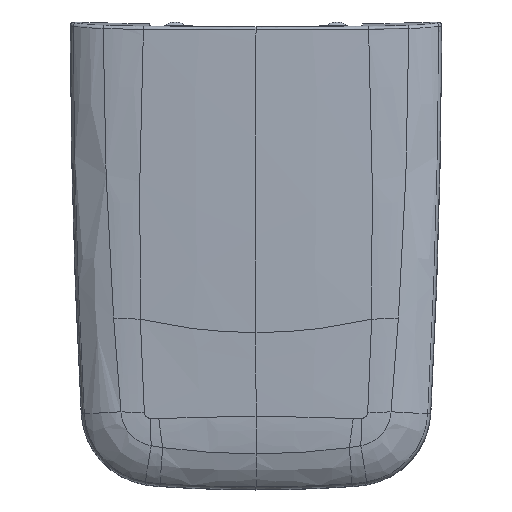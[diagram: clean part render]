
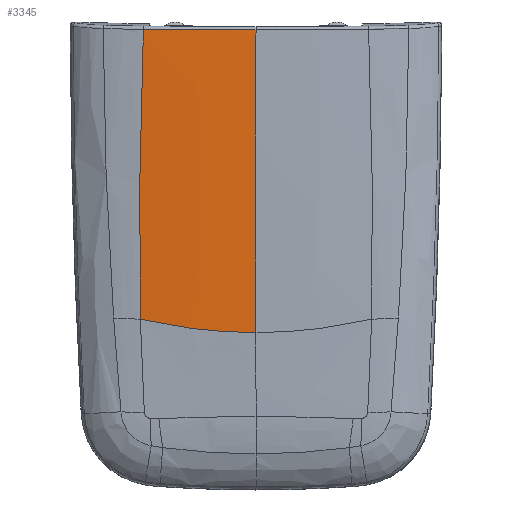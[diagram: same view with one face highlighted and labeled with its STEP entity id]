
A CAD part, top view. The second image highlights one B-rep face of the part: STEP entity #3345.
In plain terms, the highlighted free-form (B-spline) face has degree [2, 5] with [3, 6] control points.
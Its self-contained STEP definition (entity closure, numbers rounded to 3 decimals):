
#200=B_SPLINE_SURFACE_WITH_KNOTS('',2,5,((#8685,#8686,#8687,#8688,#8689,
#8690),(#8691,#8692,#8693,#8694,#8695,#8696),(#8697,#8698,#8699,#8700,#8701,
#8702)),.UNSPECIFIED.,.F.,.F.,.F.,(3,3),(6,6),(0.,1.),(0.,1.),
 .UNSPECIFIED.);
#386=B_SPLINE_CURVE_WITH_KNOTS('',2,(#6528,#6529,#6530),.UNSPECIFIED.,.F.,
 .F.,(3,3),(0.,1.),.UNSPECIFIED.);
#439=B_SPLINE_CURVE_WITH_KNOTS('',3,(#8645,#8646,#8647,#8648,#8649,#8650,
#8651,#8652,#8653,#8654,#8655,#8656,#8657,#8658,#8659,#8660,#8661,#8662,
#8663,#8664,#8665,#8666,#8667,#8668,#8669,#8670,#8671,#8672,#8673,#8674,
#8675,#8676,#8677,#8678,#8679,#8680,#8681,#8682,#8683,#8684),
 .UNSPECIFIED.,.F.,.F.,(4,2,2,2,2,2,2,2,2,2,2,2,2,2,2,2,2,2,2,4),(0.,
0.068,0.146,0.229,0.297,
0.358,0.417,0.472,0.5,0.553,
0.604,0.654,0.702,0.749,
0.795,0.841,0.885,0.929,0.966,
1.),.UNSPECIFIED.);
#440=B_SPLINE_CURVE_WITH_KNOTS('',3,(#8707,#8708,#8709,#8710,#8711,#8712,
#8713,#8714,#8715,#8716,#8717,#8718,#8719,#8720,#8721,#8722),
 .UNSPECIFIED.,.F.,.F.,(4,2,2,2,2,2,2,4),(0.,0.155,0.309,
0.464,0.618,0.772,0.926,
1.),.UNSPECIFIED.);
#734=FACE_OUTER_BOUND('',#969,.T.);
#969=EDGE_LOOP('',(#2356,#2357,#2358,#2359,#2360,#2361));
#1190=CIRCLE('',#3614,4890.754);
#1191=CIRCLE('',#3616,9999.612);
#1192=CIRCLE('',#3617,9999.948);
#1319=VERTEX_POINT('',#6451);
#1321=VERTEX_POINT('',#6526);
#1378=VERTEX_POINT('',#8641);
#1379=VERTEX_POINT('',#8642);
#1380=VERTEX_POINT('',#8703);
#1381=VERTEX_POINT('',#8705);
#1645=EDGE_CURVE('',#1319,#1321,#386,.T.);
#1735=EDGE_CURVE('',#1378,#1379,#1190,.T.);
#1737=EDGE_CURVE('',#1379,#1319,#439,.T.);
#1738=EDGE_CURVE('',#1321,#1380,#1191,.T.);
#1739=EDGE_CURVE('',#1380,#1381,#1192,.T.);
#1740=EDGE_CURVE('',#1381,#1378,#440,.T.);
#2356=ORIENTED_EDGE('',*,*,#1735,.T.);
#2357=ORIENTED_EDGE('',*,*,#1737,.T.);
#2358=ORIENTED_EDGE('',*,*,#1645,.T.);
#2359=ORIENTED_EDGE('',*,*,#1738,.T.);
#2360=ORIENTED_EDGE('',*,*,#1739,.T.);
#2361=ORIENTED_EDGE('',*,*,#1740,.T.);
#3345=ADVANCED_FACE('',(#734),#200,.T.);
#3614=AXIS2_PLACEMENT_3D('',#8643,#3959,#3960);
#3616=AXIS2_PLACEMENT_3D('',#8704,#3963,#3964);
#3617=AXIS2_PLACEMENT_3D('',#8706,#3965,#3966);
#3959=DIRECTION('center_axis',(0.173,-0.011,0.985));
#3960=DIRECTION('ref_axis',(-0.984,0.036,0.173));
#3963=DIRECTION('center_axis',(-1.,0.,0.));
#3964=DIRECTION('ref_axis',(0.,0.003,1.));
#3965=DIRECTION('center_axis',(-1.,0.,0.));
#3966=DIRECTION('ref_axis',(0.,0.004,1.));
#6451=CARTESIAN_POINT('',(-110.972,-269.203,40.959));
#6526=CARTESIAN_POINT('',(0.,-282.028,44.076));
#6528=CARTESIAN_POINT('Ctrl Pts',(-110.972,-269.203,40.959));
#6529=CARTESIAN_POINT('Ctrl Pts',(-55.486,-282.028,44.076));
#6530=CARTESIAN_POINT('Ctrl Pts',(0.,-282.028,
44.076));
#8641=CARTESIAN_POINT('',(-107.96,8.896,43.201));
#8642=CARTESIAN_POINT('',(-108.202,2.516,43.173));
#8643=CARTESIAN_POINT('Origin',(4705.282,-172.721,-804.851));
#8645=CARTESIAN_POINT('Ctrl Pts',(-108.202,2.516,43.173));
#8646=CARTESIAN_POINT('Ctrl Pts',(-108.433,-3.709,43.145));
#8647=CARTESIAN_POINT('Ctrl Pts',(-108.653,-9.932,43.115));
#8648=CARTESIAN_POINT('Ctrl Pts',(-109.099,-23.245,43.046));
#8649=CARTESIAN_POINT('Ctrl Pts',(-109.321,-30.335,43.007));
#8650=CARTESIAN_POINT('Ctrl Pts',(-109.748,-44.926,42.921));
#8651=CARTESIAN_POINT('Ctrl Pts',(-109.951,-52.428,42.874));
#8652=CARTESIAN_POINT('Ctrl Pts',(-110.291,-66.077,42.784));
#8653=CARTESIAN_POINT('Ctrl Pts',(-110.433,-72.225,42.742));
#8654=CARTESIAN_POINT('Ctrl Pts',(-110.684,-83.965,42.658));
#8655=CARTESIAN_POINT('Ctrl Pts',(-110.794,-89.558,42.617));
#8656=CARTESIAN_POINT('Ctrl Pts',(-110.992,-100.45,42.535));
#8657=CARTESIAN_POINT('Ctrl Pts',(-111.081,-105.749,42.493));
#8658=CARTESIAN_POINT('Ctrl Pts',(-111.237,-116.038,42.411));
#8659=CARTESIAN_POINT('Ctrl Pts',(-111.306,-121.027,42.37));
#8660=CARTESIAN_POINT('Ctrl Pts',(-111.399,-128.56,42.307));
#8661=CARTESIAN_POINT('Ctrl Pts',(-111.428,-131.104,42.285));
#8662=CARTESIAN_POINT('Ctrl Pts',(-111.508,-138.431,42.223));
#8663=CARTESIAN_POINT('Ctrl Pts',(-111.554,-143.214,42.181));
#8664=CARTESIAN_POINT('Ctrl Pts',(-111.631,-152.668,42.097));
#8665=CARTESIAN_POINT('Ctrl Pts',(-111.662,-157.339,42.055));
#8666=CARTESIAN_POINT('Ctrl Pts',(-111.712,-166.459,41.972));
#8667=CARTESIAN_POINT('Ctrl Pts',(-111.73,-170.908,41.931));
#8668=CARTESIAN_POINT('Ctrl Pts',(-111.754,-179.71,41.848));
#8669=CARTESIAN_POINT('Ctrl Pts',(-111.76,-184.063,41.807));
#8670=CARTESIAN_POINT('Ctrl Pts',(-111.76,-192.684,41.724));
#8671=CARTESIAN_POINT('Ctrl Pts',(-111.754,-196.952,41.683));
#8672=CARTESIAN_POINT('Ctrl Pts',(-111.73,-205.413,41.6));
#8673=CARTESIAN_POINT('Ctrl Pts',(-111.712,-209.605,41.559));
#8674=CARTESIAN_POINT('Ctrl Pts',(-111.665,-217.886,41.477));
#8675=CARTESIAN_POINT('Ctrl Pts',(-111.635,-221.975,41.436));
#8676=CARTESIAN_POINT('Ctrl Pts',(-111.564,-230.101,41.355));
#8677=CARTESIAN_POINT('Ctrl Pts',(-111.523,-234.138,41.314));
#8678=CARTESIAN_POINT('Ctrl Pts',(-111.428,-242.134,41.233));
#8679=CARTESIAN_POINT('Ctrl Pts',(-111.375,-246.093,41.193));
#8680=CARTESIAN_POINT('Ctrl Pts',(-111.266,-253.335,41.12));
#8681=CARTESIAN_POINT('Ctrl Pts',(-111.211,-256.617,41.087));
#8682=CARTESIAN_POINT('Ctrl Pts',(-111.096,-263.001,41.022));
#8683=CARTESIAN_POINT('Ctrl Pts',(-111.037,-266.102,40.99));
#8684=CARTESIAN_POINT('Ctrl Pts',(-110.972,-269.203,40.959));
#8685=CARTESIAN_POINT('Ctrl Pts',(143.488,44.45,40.417));
#8686=CARTESIAN_POINT('Ctrl Pts',(145.599,-16.863,39.853));
#8687=CARTESIAN_POINT('Ctrl Pts',(145.578,-78.242,39.5));
#8688=CARTESIAN_POINT('Ctrl Pts',(144.502,-139.585,39.268));
#8689=CARTESIAN_POINT('Ctrl Pts',(142.196,-200.916,39.177));
#8690=CARTESIAN_POINT('Ctrl Pts',(138.206,-262.136,39.241));
#8691=CARTESIAN_POINT('Ctrl Pts',(0.,25.499,53.383));
#8692=CARTESIAN_POINT('Ctrl Pts',(0.,-39.998,
54.828));
#8693=CARTESIAN_POINT('Ctrl Pts',(0.,-105.433,55.057));
#8694=CARTESIAN_POINT('Ctrl Pts',(0.,-170.902,
54.159));
#8695=CARTESIAN_POINT('Ctrl Pts',(0.,-236.368,
52.116));
#8696=CARTESIAN_POINT('Ctrl Pts',(0.,-301.921,
48.912));
#8697=CARTESIAN_POINT('Ctrl Pts',(-143.488,44.45,40.417));
#8698=CARTESIAN_POINT('Ctrl Pts',(-145.599,-16.863,39.853));
#8699=CARTESIAN_POINT('Ctrl Pts',(-145.578,-78.242,39.5));
#8700=CARTESIAN_POINT('Ctrl Pts',(-144.502,-139.585,39.268));
#8701=CARTESIAN_POINT('Ctrl Pts',(-142.196,-200.916,39.177));
#8702=CARTESIAN_POINT('Ctrl Pts',(-138.206,-262.136,39.241));
#8703=CARTESIAN_POINT('',(0.,-3.507,47.093));
#8704=CARTESIAN_POINT('Origin',(0.,-34.471,-9952.471));
#8705=CARTESIAN_POINT('',(0.,8.373,47.05));
#8706=CARTESIAN_POINT('Origin',(0.,-34.472,-9952.807));
#8707=CARTESIAN_POINT('Ctrl Pts',(-0.001,8.373,
47.05));
#8708=CARTESIAN_POINT('Ctrl Pts',(-5.574,8.373,47.05));
#8709=CARTESIAN_POINT('Ctrl Pts',(-11.147,8.378,47.019));
#8710=CARTESIAN_POINT('Ctrl Pts',(-22.29,8.394,46.897));
#8711=CARTESIAN_POINT('Ctrl Pts',(-27.859,8.407,46.805));
#8712=CARTESIAN_POINT('Ctrl Pts',(-38.993,8.44,46.561));
#8713=CARTESIAN_POINT('Ctrl Pts',(-44.557,8.46,46.408));
#8714=CARTESIAN_POINT('Ctrl Pts',(-55.674,8.51,46.042));
#8715=CARTESIAN_POINT('Ctrl Pts',(-61.226,8.539,45.828));
#8716=CARTESIAN_POINT('Ctrl Pts',(-72.322,8.605,45.34));
#8717=CARTESIAN_POINT('Ctrl Pts',(-77.865,8.643,45.065));
#8718=CARTESIAN_POINT('Ctrl Pts',(-88.936,8.725,44.455));
#8719=CARTESIAN_POINT('Ctrl Pts',(-94.464,8.771,44.119));
#8720=CARTESIAN_POINT('Ctrl Pts',(-102.647,8.845,43.576));
#8721=CARTESIAN_POINT('Ctrl Pts',(-105.304,8.87,43.392));
#8722=CARTESIAN_POINT('Ctrl Pts',(-107.96,8.896,43.201));
